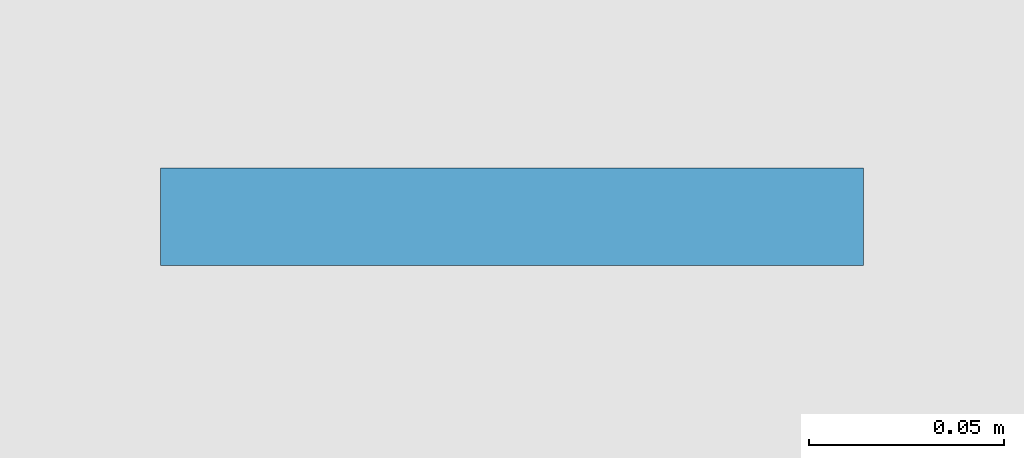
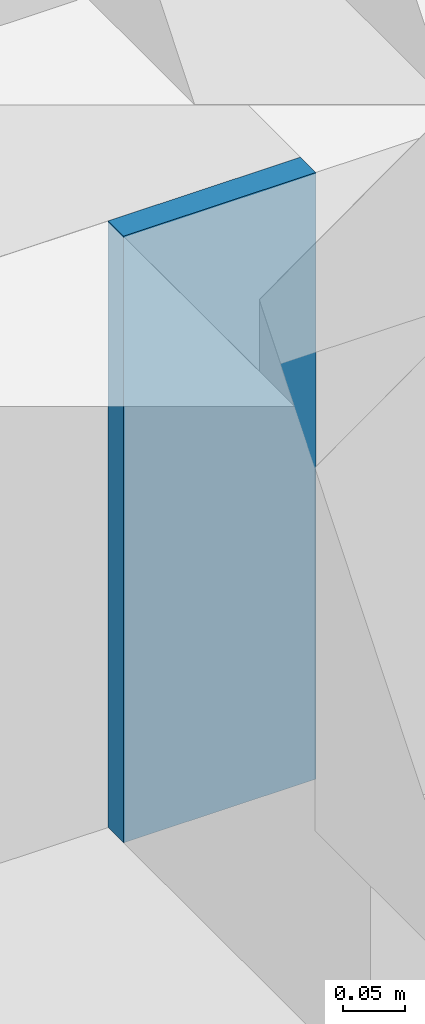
# One storey, part 2 of 29: 1 beam.
"""IFC2X3 building model written with IfcOpenShell, lengths in centimetres."""

import ifcopenshell
import ifcopenshell.guid

model = None  # the IFC model being written
_history = None  # IfcOwnerHistory: only IFC2X3 demands one
_inside = {}  # id of a spatial element -> (the spatial element, [elements in it])
_under = {}  # id of a project, library or spatial element -> (it, [spatial elements below it])
_declared = {}  # id of a project -> (the project, [libraries it declares])
_typed = {}  # id of a type object -> (the type object, [elements of that type])
_made_of = {}  # id of a material, layer set ... -> (it, [elements and type objects made of it])


def new_model(schema):
    """Start an empty IFC model of exactly this schema.

    Asked for "IFC4X3", IfcOpenShell would pick the latest addendum, in which some entities
    have other attributes; the version numbers below select the first issue.
    IFC2X3 requires an IfcOwnerHistory on every rooted entity: one is made here for all.
    """
    global model, _history
    if schema == "IFC4X3":
        model = ifcopenshell.file(schema_version=(4, 3, 0, 0))
    else:
        model = ifcopenshell.file(schema=schema)
    _inside.clear()
    _under.clear()
    _declared.clear()
    _typed.clear()
    _made_of.clear()
    _history = None
    if model.schema == "IFC2X3":
        org = make("IfcOrganization", Name="unknown")
        user = make(
            "IfcPersonAndOrganization",
            ThePerson=make("IfcPerson", FamilyName="unknown"),
            TheOrganization=org,
        )
        app = make(
            "IfcApplication",
            ApplicationDeveloper=org,
            Version="unknown",
            ApplicationFullName="unknown",
            ApplicationIdentifier="unknown",
        )
        _history = make(
            "IfcOwnerHistory",
            OwningUser=user,
            OwningApplication=app,
            ChangeAction="ADDED",
            CreationDate=0,
        )
    return model


def make(cls, **values):
    """One entity of the class cls with the attributes given. An attribute that is None is left unset."""
    return model.create_entity(
        cls, **{name: value for name, value in values.items() if value is not None}
    )


def entity(cls, *values):
    """Any entity or typed value of the class cls, its attributes in the order of the schema. None: left unset."""
    e = model.create_entity(cls)
    for i, value in enumerate(values):
        if value is not None:
            e[i] = value
    return e


def rooted(cls, **values):
    """An entity with a GlobalId (a new one), such as an element, a storey or a relation."""
    return make(cls, GlobalId=ifcopenshell.guid.new(), OwnerHistory=_history, **values)


def si_unit(unit_type, name, prefix=None):
    """IfcSIUnit, for example si_unit("LENGTHUNIT", "METRE", prefix="MILLI")."""
    return make("IfcSIUnit", UnitType=unit_type, Prefix=prefix, Name=name)


def converted_unit(unit_type, name, factor, base, dimensions=None, offset=None):
    """IfcConversionBasedUnit, such as the inch: factor (a typed value) times the base unit."""
    return make(
        "IfcConversionBasedUnit"
        if offset is None
        else "IfcConversionBasedUnitWithOffset",
        ConversionOffset=offset,
        Dimensions=None
        if dimensions is None
        else entity("IfcDimensionalExponents", *dimensions),
        UnitType=unit_type,
        Name=name,
        ConversionFactor=make(
            "IfcMeasureWithUnit", ValueComponent=factor, UnitComponent=base
        ),
    )


def derived_unit(unit_type, elements):
    """IfcDerivedUnit: a product of units, each with its exponent."""
    return make(
        "IfcDerivedUnit",
        Elements=[
            make("IfcDerivedUnitElement", Unit=unit, Exponent=power)
            for unit, power in elements
        ],
        UnitType=unit_type,
    )


def assignment(units):
    """IfcUnitAssignment: the units of a project."""
    return None if units is None else make("IfcUnitAssignment", Units=units)


def point(xyz):
    """IfcCartesianPoint."""
    return None if xyz is None else make("IfcCartesianPoint", Coordinates=xyz)


def direction(xyz):
    """IfcDirection."""
    return None if xyz is None else make("IfcDirection", DirectionRatios=xyz)


def frame(location, z_axis=None, x_axis=None):
    """IfcAxis2Placement3D, a coordinate frame: its origin and axes. An axis left out is left unset."""
    return make(
        "IfcAxis2Placement3D",
        Location=point(location),
        Axis=direction(z_axis),
        RefDirection=direction(x_axis),
    )


def frame_2d(location, x_axis=None):
    """IfcAxis2Placement2D, a coordinate frame in the plane: its origin and x axis."""
    return make(
        "IfcAxis2Placement2D", Location=point(location), RefDirection=direction(x_axis)
    )


def origin():
    """The frame at (0, 0, 0) with its axes left unset."""
    return frame((0.0, 0.0, 0.0))


def place(relative_to, where):
    """IfcLocalPlacement: puts the frame where relative to a parent placement (None: the world)."""
    return make(
        "IfcLocalPlacement", PlacementRelTo=relative_to, RelativePlacement=where
    )


def context(
    kind, dimensions, precision=None, world=None, true_north=None, identifier=None
):
    """IfcGeometricRepresentationContext, for example the 3D "Model" context."""
    return make(
        "IfcGeometricRepresentationContext",
        ContextIdentifier=identifier,
        ContextType=kind,
        CoordinateSpaceDimension=dimensions,
        Precision=precision,
        WorldCoordinateSystem=world,
        TrueNorth=true_north,
    )


def subcontext(parent, identifier, kind, view, scale=None):
    """IfcGeometricRepresentationSubContext, for example "Body" below "Model"."""
    return make(
        "IfcGeometricRepresentationSubContext",
        ContextIdentifier=identifier,
        ContextType=kind,
        ParentContext=parent,
        TargetScale=scale,
        TargetView=view,
    )


def project(units=None, contexts=None):
    """IfcProject with its units and contexts."""
    return rooted(
        "IfcProject",
        Name="project",
        RepresentationContexts=contexts,
        UnitsInContext=assignment(units),
    )


def spatial(cls, under=None, at=None, **own):
    """A site, building, storey or space (cls), placed at a placement, below another one or the project."""
    s = rooted(cls, ObjectPlacement=at, **own)
    if under is not None:
        _under.setdefault(under.id(), (under, []))[1].append(s)
    return s


def profile(cls, at=None, kind="AREA", **sizes):
    """A parametric profile (cls). Its sizes go by their IFC names, for example OverallWidth=200.0."""
    return make(cls, ProfileType=kind, Position=at, **sizes)


def rectangle(**sizes):
    """IfcRectangleProfileDef."""
    return profile("IfcRectangleProfileDef", **sizes)


def extrude(swept, where, along, depth):
    """IfcExtrudedAreaSolid: the profile swept, set in the frame where, extruded along a direction by depth."""
    return make(
        "IfcExtrudedAreaSolid",
        SweptArea=swept,
        Position=where,
        ExtrudedDirection=direction(along),
        Depth=depth,
    )


def shape(context_of_items, identifier, shape_type, items):
    """IfcShapeRepresentation: the items that make up one representation, for example the "Body"."""
    return make(
        "IfcShapeRepresentation",
        ContextOfItems=context_of_items,
        RepresentationIdentifier=identifier,
        RepresentationType=shape_type,
        Items=items,
    )


def material(Name=None, Category=None):
    """IfcMaterial."""
    return make("IfcMaterial", Name=Name, Category=Category)


def made_of(thing, what):
    """Note that an element or type object is made of a material, layer set ...; save() writes the relation."""
    if what is not None:
        _made_of.setdefault(what.id(), (what, []))[1].append(thing)
    return thing


def type_object(cls, material=None, **own):
    """A type object (cls), such as IfcWallType, which elements share."""
    return made_of(rooted(cls, **own), material)


def element(
    cls,
    number,
    at=None,
    inside=None,
    cuts=None,
    type_object=None,
    material=None,
    context=None,
    identifier="Body",
    shape_type=None,
    held_by="IfcProductDefinitionShape",
    body=None,
    shapes=None,
    **own,
):
    """One element of the class cls, such as IfcWall. Its Tag is "e" and its number.

    at: its placement. inside: the storey or other place that contains it. cuts: it is an
    opening in that element (IfcRelVoidsElement). A single representation is given by context,
    identifier, shape_type and body (its items); several are given by shapes. held_by: the class
    of the entity that holds the representations. save() writes the other relations.
    """
    e = rooted(cls, Tag="e%d" % number, ObjectPlacement=at, **own)
    if body is not None:
        shapes = [shape(context, identifier, shape_type, body)]
    if shapes is not None:
        e.Representation = make(held_by, Representations=shapes)
    if inside is not None:
        _inside.setdefault(inside.id(), (inside, []))[1].append(e)
    if cuts is not None:
        rooted(
            "IfcRelVoidsElement", RelatingBuildingElement=cuts, RelatedOpeningElement=e
        )
    if type_object is not None:
        _typed.setdefault(type_object.id(), (type_object, []))[1].append(e)
    return made_of(e, material)


def aggregate(whole, parts):
    """IfcRelAggregates: a whole, such as a stair, and the parts it consists of."""
    return rooted("IfcRelAggregates", RelatingObject=whole, RelatedObjects=parts)


def save(model, path):
    """Write the relations noted so far, then the file.

    IfcRelAggregates (storeys below a building ...), IfcRelContainedInSpatialStructure (elements
    in a storey), IfcRelDefinesByType, IfcRelAssociatesMaterial and IfcRelDeclares: one each for
    every whole, place, type object, material and project.
    """
    for whole, parts in _under.values():
        aggregate(whole, parts)
    for where, things in _inside.values():
        rooted(
            "IfcRelContainedInSpatialStructure",
            RelatedElements=things,
            RelatingStructure=where,
        )
    for kind, things in _typed.values():
        rooted("IfcRelDefinesByType", RelatedObjects=things, RelatingType=kind)
    for what, things in _made_of.values():
        rooted("IfcRelAssociatesMaterial", RelatedObjects=things, RelatingMaterial=what)
    for by, libraries in _declared.values():
        rooted("IfcRelDeclares", RelatingContext=by, RelatedDefinitions=libraries)
    model.write(path)


model = new_model("IFC2X3")

# Units and contexts
model_context = context("Model", 3, precision=0.001, world=origin(), true_north=direction((6.12303176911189e-17, 1.0)))
body_context = subcontext(model_context, "Body", "Model", "MODEL_VIEW")
ifc_project = project(units=[si_unit("LENGTHUNIT", "METRE", prefix="CENTI"), si_unit("AREAUNIT", "SQUARE_METRE"), si_unit("VOLUMEUNIT", "CUBIC_METRE"), converted_unit("PLANEANGLEUNIT", "DEGREE", entity("IfcRatioMeasure", 0.0174532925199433), si_unit("PLANEANGLEUNIT", "RADIAN"), dimensions=[0, 0, 0, 0, 0, 0, 0]), si_unit("MASSUNIT", "GRAM", prefix="KILO"), derived_unit("MASSDENSITYUNIT", [(si_unit("MASSUNIT", "GRAM", prefix="KILO"), 1), (si_unit("LENGTHUNIT", "METRE"), -3)]), si_unit("TIMEUNIT", "SECOND"), si_unit("FREQUENCYUNIT", "HERTZ"), si_unit("THERMODYNAMICTEMPERATUREUNIT", "DEGREE_CELSIUS"), derived_unit("THERMALTRANSMITTANCEUNIT", [(si_unit("MASSUNIT", "GRAM", prefix="KILO"), 1), (si_unit("THERMODYNAMICTEMPERATUREUNIT", "KELVIN"), -1), (si_unit("TIMEUNIT", "SECOND"), -3)]), derived_unit("VOLUMETRICFLOWRATEUNIT", [(si_unit("LENGTHUNIT", "METRE"), 3), (si_unit("TIMEUNIT", "SECOND"), -1)]), si_unit("ELECTRICCURRENTUNIT", "AMPERE"), si_unit("ELECTRICVOLTAGEUNIT", "VOLT"), si_unit("POWERUNIT", "WATT"), si_unit("FORCEUNIT", "NEWTON"), si_unit("ILLUMINANCEUNIT", "LUX"), si_unit("LUMINOUSFLUXUNIT", "LUMEN"), si_unit("LUMINOUSINTENSITYUNIT", "CANDELA"), derived_unit("USERDEFINED", [(si_unit("MASSUNIT", "GRAM", prefix="KILO"), -1), (si_unit("LENGTHUNIT", "METRE"), -2), (si_unit("TIMEUNIT", "SECOND"), 3), (si_unit("LUMINOUSFLUXUNIT", "LUMEN"), 1)]), derived_unit("LINEARVELOCITYUNIT", [(si_unit("LENGTHUNIT", "METRE"), 1), (si_unit("TIMEUNIT", "SECOND"), -1)]), si_unit("PRESSUREUNIT", "PASCAL"), derived_unit("USERDEFINED", [(si_unit("LENGTHUNIT", "METRE"), -2), (si_unit("MASSUNIT", "GRAM", prefix="KILO"), 1), (si_unit("TIMEUNIT", "SECOND"), -2)])], contexts=[model_context])

# Site, building, storey
site_placement = place(None, origin())
site = spatial("IfcSite", under=ifc_project, at=site_placement, Name="Default", CompositionType="ELEMENT")
building_placement = place(site_placement, origin())
building = spatial("IfcBuilding", under=site, at=building_placement, Name="CAGE 03", CompositionType="ELEMENT")
storey_placement = place(building_placement, frame((0.0, 0.0, -26.0)))
storey = spatial("IfcBuildingStorey", under=building, at=storey_placement, Name="+3.74", CompositionType="ELEMENT", Elevation=-26.0000000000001)

# Beam
ifc_material = material(Name="Béton, C25/30")
beam_type = type_object("IfcBeamType", Name="BBGO-Poutre rect:18x80ht", PredefinedType="BEAM")
beam_placement = place(storey_placement, frame((8149.36582014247, 4926.6606660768, 0.0), z_axis=(0.0, 0.0, 1.0), x_axis=(0.0, 1.0, 0.0)))
element("IfcBeam", 1, at=beam_placement, inside=storey, type_object=beam_type, material=ifc_material, Name="BBGO-Poutre rect:18x80ht", ObjectType="BBGO-Poutre rect:18x80ht", context=body_context, shape_type="SweptSolid", body=[
    extrude(rectangle(XDim=60.0000000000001, YDim=17.9999999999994, at=frame_2d((7.105427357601e-15, 0.0), x_axis=(1.0, 0.0))), frame((0.0, 9.0, -50.0), z_axis=(1.0, 0.0, 0.0), x_axis=(0.0, 0.0, -1.0)), (0.0, 0.0, 1.0), 2.50000000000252),
])

save(model, "model.ifc")
